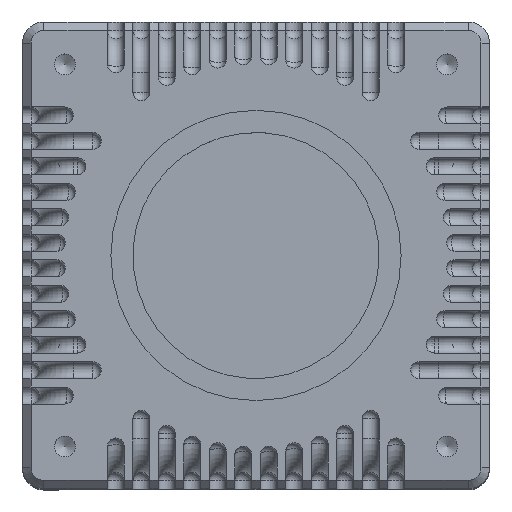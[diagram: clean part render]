
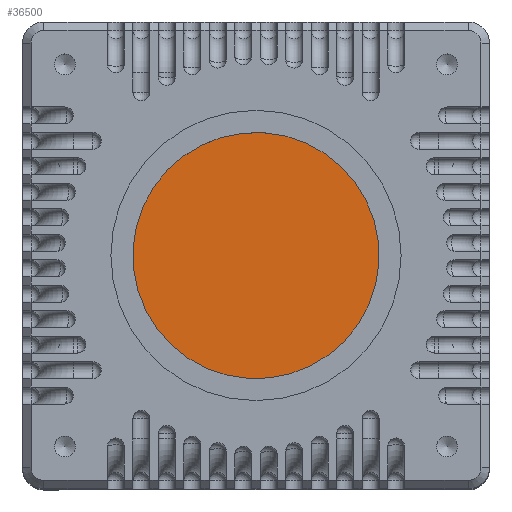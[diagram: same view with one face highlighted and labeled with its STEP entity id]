
A CAD part, top view. The second image highlights one B-rep face of the part: STEP entity #36500.
In plain terms, the highlighted planar face has unit normal (0, 0, 1) as drawn and (0, 1, 0) by its records, which use the part's own axes.
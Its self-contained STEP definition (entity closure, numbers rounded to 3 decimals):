
#9986=FACE_OUTER_BOUND('',#12294,.T.);
#12294=EDGE_LOOP('',(#32604));
#13955=CIRCLE('',#40349,15.5);
#17296=VERTEX_POINT('',#97651);
#22403=EDGE_CURVE('',#17296,#17296,#13955,.T.);
#32604=ORIENTED_EDGE('',*,*,#22403,.T.);
#33611=PLANE('',#40351);
#36500=ADVANCED_FACE('',(#9986),#33611,.T.);
#40349=AXIS2_PLACEMENT_3D('',#97652,#50388,#50389);
#40351=AXIS2_PLACEMENT_3D('',#97656,#50393,#50394);
#50388=DIRECTION('center_axis',(0.,1.,0.));
#50389=DIRECTION('ref_axis',(1.,0.,0.));
#50393=DIRECTION('center_axis',(0.,1.,0.));
#50394=DIRECTION('ref_axis',(0.,0.,1.));
#97651=CARTESIAN_POINT('',(-15.5,2.,0.));
#97652=CARTESIAN_POINT('Origin',(0.,2.,0.));
#97656=CARTESIAN_POINT('Origin',(0.,2.,0.));
